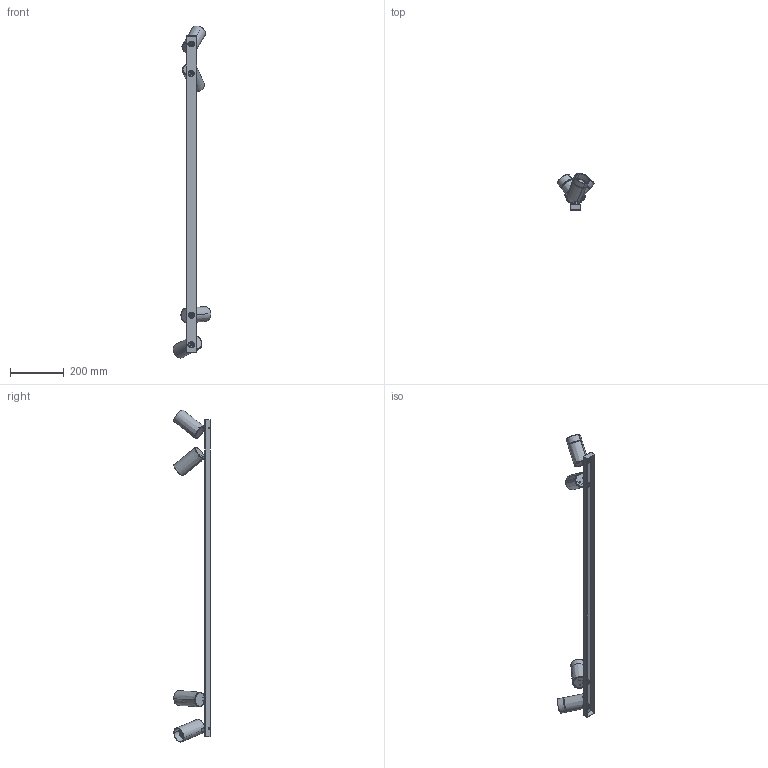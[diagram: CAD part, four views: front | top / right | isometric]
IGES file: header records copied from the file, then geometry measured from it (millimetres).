
Start section: SolidWorks IGES file using analytic representation for surfaces
Global section: file name: Z:\Modele 3D_WWW\_KOLEKCJE_WWW\MONO\MONO-BELKA\MONO-IV-BRASS-7784\MONO-IV-BRASS-7784.IGS; native system: SolidWorks 2021; preprocessor: SolidWorks 2021; author: gabriela.tworek; date: 210723.090149; units: millimetre
Bounding box: 139.61 x 135.44 x 1236.77 mm (x, y, z)
Surface area: 386424.4 mm2 (no closed solid volume)
Topology: 0 solids, 0 shells, 734 faces, 11480 edges, 11476 vertices
Faces by surface type: revolution 460, bspline 274
